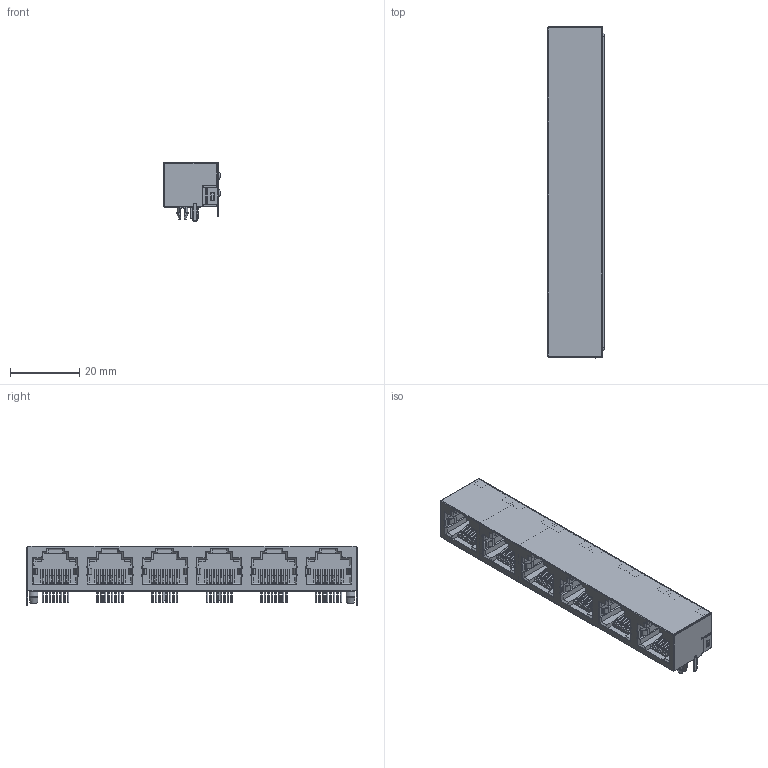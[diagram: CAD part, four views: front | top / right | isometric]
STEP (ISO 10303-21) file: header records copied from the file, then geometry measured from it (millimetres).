
FILE_DESCRIPTION((''),'2;1');
FILE_NAME('56_1X63D00_ASM_1_ASM','2024-08-22T15:31:44',('DGKYD'),(''),'CREO PARAMETRIC BY PTC INC, 2019010','CREO PARAMETRIC BY PTC INC, 2019010','');
FILE_SCHEMA(('CONFIG_CONTROL_DESIGN'));
Products named in the file (53): MSBR-94_1; MSBR-93_1; MSBR-92_1; MSBR-65_1; MSBR-64_1; MSBR-63_1; MSBR-62_1; MSBR-61_1; MSBR-60_1; MSBR-59_1; MSBR-58_1; MSBR-57_1; MSBR-56_1; MSBR-55_1; MSBR-54_1; MSBR-53_1; MSBR-52_1; MSBR-51_1; MSBR-50_1; MSBR-46_1; MSBR-45_1; MSBR-44_1; MSBR-43_1; MSBR-42_1; MSBR-41_1; MSBR-40_1; MSBR-39_1; MSBR-34_1; MSBR-33_1; MSBR-32_1; MSBR-31_1; MSBR-30_1; MSBR-29_1; MSBR-28_1; MSBR-27_1; MSBR-23_1; MSBR-22_1; MSBR-21_1; MSBR-20_1; MSBR-19_1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
Assembly tree (52 placements, depth 2):
  56_1X63D00_ASM_1_ASM
    MSBR-94_1
    MSBR-93_1
    MSBR-92_1
    MSBR-65_1
    MSBR-64_1
    MSBR-63_1
    MSBR-62_1
    MSBR-61_1
    MSBR-60_1
    MSBR-59_1
    MSBR-58_1
    MSBR-57_1
    MSBR-56_1
    MSBR-55_1
    MSBR-54_1
    MSBR-53_1
    MSBR-52_1
    MSBR-51_1
    MSBR-50_1
    MSBR-46_1
    MSBR-45_1
    MSBR-44_1
    MSBR-43_1
    MSBR-42_1
    MSBR-41_1
    MSBR-40_1
    MSBR-39_1
    MSBR-34_1
    MSBR-33_1
    MSBR-32_1
    MSBR-31_1
    MSBR-30_1
    MSBR-29_1
    MSBR-28_1
    MSBR-27_1
    MSBR-23_1
    MSBR-22_1
    MSBR-21_1
    MSBR-20_1
    MSBR-19_1
    MSBR-18_1
    MSBR-17_1
    MSBR-16_1
    MSBR-15_1
    MSBR-14_1
    MSBR-13_1
    MSBR-12_1
    MSBR-11_1
    MSBR-10_1
    MSBR-9_1
    MSBR-8_1
    MSBR-2_1
Bounding box: 16.2 x 95.73 x 17.23 mm (x, y, z)
Volume: 8994.6 mm3; surface area: 24699.4 mm2
Topology: 52 solids, 52 shells, 3375 faces, 9914 edges, 6551 vertices
Faces by surface type: plane 2179, cylinder 612, torus 576, cone 4, bspline 4
Entity records: 114267 total; most frequent: CARTESIAN_POINT 20621, ORIENTED_EDGE 19828, DIRECTION 19649, EDGE_CURVE 9914, VECTOR 6905, LINE 6905, VERTEX_POINT 6551, AXIS2_PLACEMENT_3D 6372
